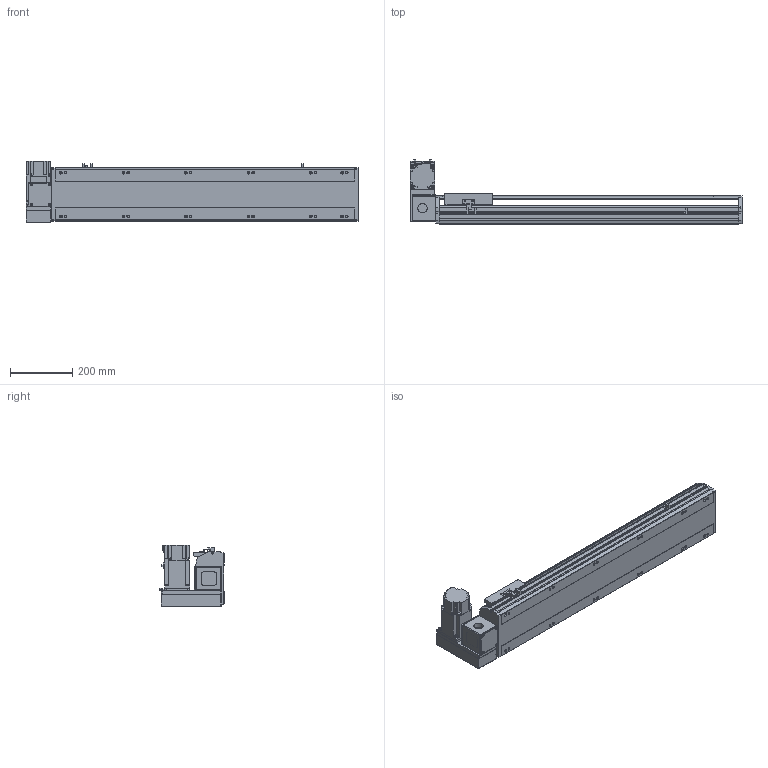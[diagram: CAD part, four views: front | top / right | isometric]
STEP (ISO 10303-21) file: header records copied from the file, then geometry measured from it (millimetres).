
FILE_DESCRIPTION(/* description */ ('STEP AP214'),/* implementation_level */ '2;1');
FILE_NAME(/* name */ 'PBS170-P40-S700-LU-T75-C1-N(0)',/* time_stamp */ '2022-06-07T10:14:34+02:00',/* author */ ('License CC BY-ND 4.0'),/* organization */ ('CADENAS'),/* preprocessor_version */ 'ST-DEVELOPER v18.102',/* originating_system */ 'PARTsolutions',/* authorisation */ ' ');
FILE_SCHEMA (('AUTOMOTIVE_DESIGN {1 0 10303 214 3 1 1}'));
Length unit declared in the file: millimetre
Products named in the file (7): PBS170-P40-S700-LU-T75-C1-N(0); PBS170_sensor; PBS170_plant; PBS170_sliser; T75-p1; PBS170T-LU_motors; PBS170-S700()_body
Assembly tree (8 placements, depth 2):
  PBS170-P40-S700-LU-T75-C1-N(0)
    PBS170_sensor  x3
    PBS170_plant
    PBS170_sliser
    T75-p1
    PBS170T-LU_motors
    PBS170-S700()_body
Bounding box: 1063 x 206 x 197.3 mm (x, y, z)
Volume: 8851753.1 mm3; surface area: 1182694.4 mm2
Topology: 8 solids, 8 shells, 1050 faces, 2795 edges, 1822 vertices
Faces by surface type: plane 675, cylinder 323, cone 42, sphere 8, torus 2
Full cylindrical faces by diameter (mm): 3.242 x4, 4 x2, 4.4 x4, 4.5 x6, 4.917 x4, 6 x9, 6.647 x20, 7 x2, 7.5 x4, 8 x8, 8.5 x12, 10 x4, 10.5 x12, 11 x2, 30 x2, 40 x1, 70 x1
Entity records: 30202 total; most frequent: CARTESIAN_POINT 5489, DIRECTION 5160, ORIENTED_EDGE 4908, EDGE_CURVE 2454, AXIS2_PLACEMENT_3D 1777, VERTEX_POINT 1682, LINE 1606, VECTOR 1606
